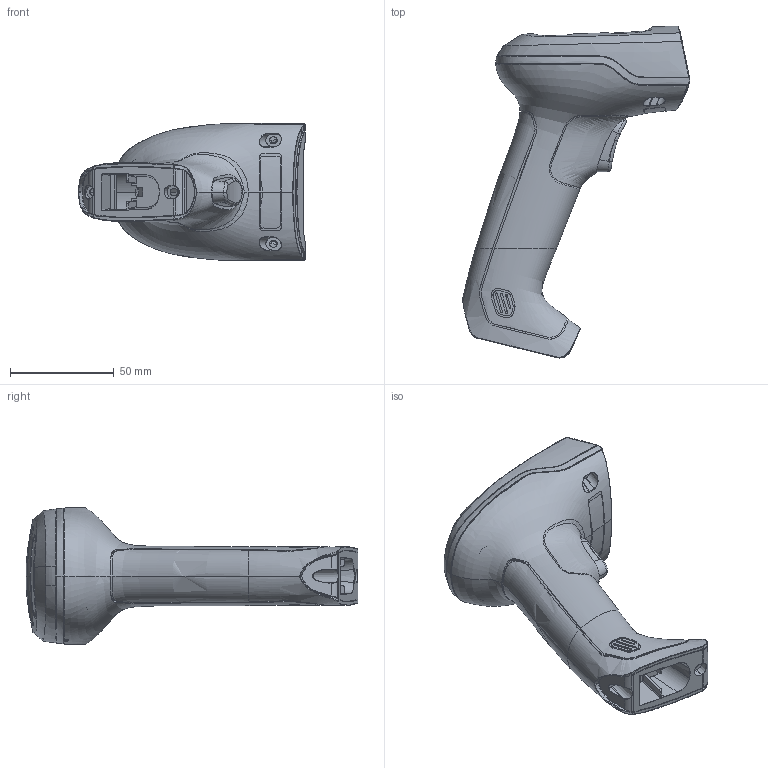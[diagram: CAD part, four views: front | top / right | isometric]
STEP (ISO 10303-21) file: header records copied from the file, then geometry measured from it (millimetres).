
FILE_DESCRIPTION((''),'2;1');
FILE_NAME('00-IDH2000-NEW_SW0006','2023-02-08T10:18:27',('guodanfeng'),(''),'CREO PARAMETRIC BY PTC INC, 2017260','CREO PARAMETRIC BY PTC INC, 2017260','');
FILE_SCHEMA(('AUTOMOTIVE_DESIGN { 1 0 10303 214 1 1 1 1 }'));
Products named in the file (1): 00-IDH2000-NEW_SW0006
Bounding box: 109.73 x 160.37 x 66.53 mm (x, y, z)
Surface area: 66308.1 mm2 (no closed solid volume)
Topology: 0 solids, 27 shells, 1083 faces, 4956 edges, 3721 vertices
Faces by surface type: bspline 528, plane 373, extrusion 83, cylinder 78, cone 17, torus 3, revolution 1
Entity records: 154771 total; most frequent: CARTESIAN_POINT 118631, ORIENTED_EDGE 7236, EDGE_CURVE 4951, VERTEX_POINT 3721, B_SPLINE_CURVE_WITH_KNOTS 3600, DIRECTION 2551, VECTOR 1428, LINE 1345
